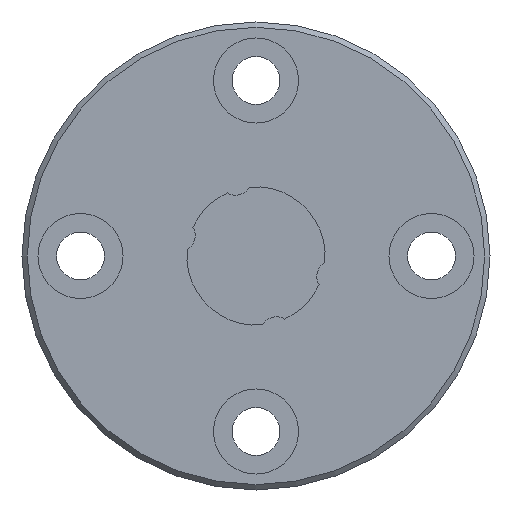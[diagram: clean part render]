
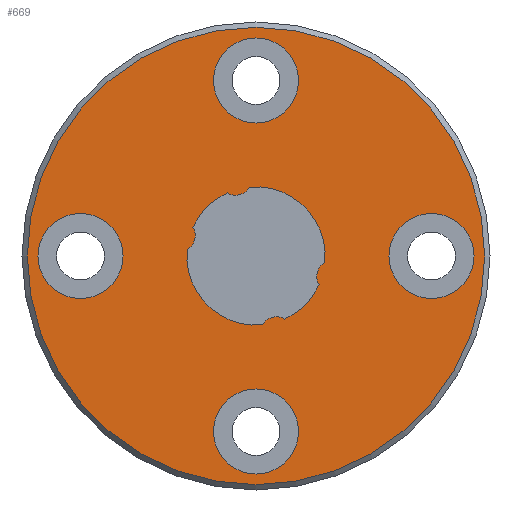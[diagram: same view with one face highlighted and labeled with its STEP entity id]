
A CAD part, left-side view. The second image highlights one B-rep face of the part: STEP entity #669.
In plain terms, the highlighted planar face has unit normal (-1, 0, 0).
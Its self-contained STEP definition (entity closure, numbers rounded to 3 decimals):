
#44=PLANE('',#757);
#135=ORIENTED_EDGE('',*,*,#279,.F.);
#136=ORIENTED_EDGE('',*,*,#280,.F.);
#137=ORIENTED_EDGE('',*,*,#281,.F.);
#138=ORIENTED_EDGE('',*,*,#282,.F.);
#139=ORIENTED_EDGE('',*,*,#283,.F.);
#140=ORIENTED_EDGE('',*,*,#284,.T.);
#141=ORIENTED_EDGE('',*,*,#285,.F.);
#142=ORIENTED_EDGE('',*,*,#286,.T.);
#143=ORIENTED_EDGE('',*,*,#287,.F.);
#144=ORIENTED_EDGE('',*,*,#288,.T.);
#145=ORIENTED_EDGE('',*,*,#289,.F.);
#146=ORIENTED_EDGE('',*,*,#290,.T.);
#147=ORIENTED_EDGE('',*,*,#291,.F.);
#279=EDGE_CURVE('',#355,#355,#421,.T.);
#280=EDGE_CURVE('',#356,#356,#422,.F.);
#281=EDGE_CURVE('',#357,#357,#423,.F.);
#282=EDGE_CURVE('',#358,#358,#424,.F.);
#283=EDGE_CURVE('',#359,#359,#425,.F.);
#284=EDGE_CURVE('',#360,#361,#426,.T.);
#285=EDGE_CURVE('',#362,#361,#427,.T.);
#286=EDGE_CURVE('',#362,#363,#428,.T.);
#287=EDGE_CURVE('',#364,#363,#429,.T.);
#288=EDGE_CURVE('',#364,#365,#430,.T.);
#289=EDGE_CURVE('',#366,#365,#431,.T.);
#290=EDGE_CURVE('',#366,#367,#432,.T.);
#291=EDGE_CURVE('',#360,#367,#433,.T.);
#355=VERTEX_POINT('',#1125);
#356=VERTEX_POINT('',#1127);
#357=VERTEX_POINT('',#1129);
#358=VERTEX_POINT('',#1131);
#359=VERTEX_POINT('',#1133);
#360=VERTEX_POINT('',#1135);
#361=VERTEX_POINT('',#1136);
#362=VERTEX_POINT('',#1138);
#363=VERTEX_POINT('',#1140);
#364=VERTEX_POINT('',#1142);
#365=VERTEX_POINT('',#1144);
#366=VERTEX_POINT('',#1146);
#367=VERTEX_POINT('',#1148);
#421=CIRCLE('',#758,21.5);
#422=CIRCLE('',#759,4.);
#423=CIRCLE('',#760,4.);
#424=CIRCLE('',#761,4.);
#425=CIRCLE('',#762,4.);
#426=CIRCLE('',#763,6.5);
#427=CIRCLE('',#764,1.44);
#428=CIRCLE('',#765,6.5);
#429=CIRCLE('',#766,1.44);
#430=CIRCLE('',#767,6.5);
#431=CIRCLE('',#768,1.44);
#432=CIRCLE('',#769,6.5);
#433=CIRCLE('',#770,1.44);
#475=EDGE_LOOP('',(#135));
#476=EDGE_LOOP('',(#136));
#477=EDGE_LOOP('',(#137));
#478=EDGE_LOOP('',(#138));
#479=EDGE_LOOP('',(#139));
#480=EDGE_LOOP('',(#140,#141,#142,#143,#144,#145,#146,#147));
#557=FACE_BOUND('',#475,.T.);
#558=FACE_BOUND('',#476,.T.);
#559=FACE_BOUND('',#477,.T.);
#560=FACE_BOUND('',#478,.T.);
#561=FACE_BOUND('',#479,.T.);
#562=FACE_BOUND('',#480,.T.);
#669=ADVANCED_FACE('',(#557,#558,#559,#560,#561,#562),#44,.F.);
#757=AXIS2_PLACEMENT_3D('',#1123,#901,#902);
#758=AXIS2_PLACEMENT_3D('',#1124,#903,#904);
#759=AXIS2_PLACEMENT_3D('',#1126,#905,#906);
#760=AXIS2_PLACEMENT_3D('',#1128,#907,#908);
#761=AXIS2_PLACEMENT_3D('',#1130,#909,#910);
#762=AXIS2_PLACEMENT_3D('',#1132,#911,#912);
#763=AXIS2_PLACEMENT_3D('',#1134,#913,#914);
#764=AXIS2_PLACEMENT_3D('',#1137,#915,#916);
#765=AXIS2_PLACEMENT_3D('',#1139,#917,#918);
#766=AXIS2_PLACEMENT_3D('',#1141,#919,#920);
#767=AXIS2_PLACEMENT_3D('',#1143,#921,#922);
#768=AXIS2_PLACEMENT_3D('',#1145,#923,#924);
#769=AXIS2_PLACEMENT_3D('',#1147,#925,#926);
#770=AXIS2_PLACEMENT_3D('',#1149,#927,#928);
#901=DIRECTION('',(1.,0.,0.));
#902=DIRECTION('',(0.,0.,-1.));
#903=DIRECTION('',(1.,0.,0.));
#904=DIRECTION('',(0.,0.,-1.));
#905=DIRECTION('',(1.,0.,0.));
#906=DIRECTION('',(0.,0.,-1.));
#907=DIRECTION('',(1.,0.,0.));
#908=DIRECTION('',(0.,0.,-1.));
#909=DIRECTION('',(1.,0.,0.));
#910=DIRECTION('',(0.,0.,-1.));
#911=DIRECTION('',(1.,0.,0.));
#912=DIRECTION('',(0.,0.,-1.));
#913=DIRECTION('',(1.,0.,0.));
#914=DIRECTION('',(0.,0.,-1.));
#915=DIRECTION('',(1.,0.,0.));
#916=DIRECTION('',(0.,0.,-1.));
#917=DIRECTION('',(1.,0.,0.));
#918=DIRECTION('',(0.,0.,-1.));
#919=DIRECTION('',(1.,0.,0.));
#920=DIRECTION('',(0.,0.,-1.));
#921=DIRECTION('',(1.,0.,0.));
#922=DIRECTION('',(0.,0.,-1.));
#923=DIRECTION('',(1.,0.,0.));
#924=DIRECTION('',(0.,0.,-1.));
#925=DIRECTION('',(1.,0.,0.));
#926=DIRECTION('',(0.,0.,-1.));
#927=DIRECTION('',(1.,0.,0.));
#928=DIRECTION('',(0.,0.,-1.));
#1123=CARTESIAN_POINT('',(0.,0.,0.));
#1124=CARTESIAN_POINT('',(0.,0.,0.));
#1125=CARTESIAN_POINT('',(0.,0.,-21.5));
#1126=CARTESIAN_POINT('',(0.,16.5,0.));
#1127=CARTESIAN_POINT('',(0.,16.5,-4.));
#1128=CARTESIAN_POINT('',(0.,0.,-16.5));
#1129=CARTESIAN_POINT('',(0.,0.,-20.5));
#1130=CARTESIAN_POINT('',(0.,0.,16.5));
#1131=CARTESIAN_POINT('',(0.,0.,12.5));
#1132=CARTESIAN_POINT('',(0.,-16.5,0.));
#1133=CARTESIAN_POINT('',(0.,-16.5,-4.));
#1134=CARTESIAN_POINT('',(0.,0.,0.));
#1135=CARTESIAN_POINT('',(0.,5.924,2.675));
#1136=CARTESIAN_POINT('',(0.,2.675,5.924));
#1137=CARTESIAN_POINT('',(0.,1.915,7.148));
#1138=CARTESIAN_POINT('',(0.,0.646,6.468));
#1139=CARTESIAN_POINT('',(0.,0.,0.));
#1140=CARTESIAN_POINT('',(0.,-6.468,-0.646));
#1141=CARTESIAN_POINT('',(0.,-7.148,-1.915));
#1142=CARTESIAN_POINT('',(0.,-5.924,-2.675));
#1143=CARTESIAN_POINT('',(0.,0.,0.));
#1144=CARTESIAN_POINT('',(0.,-2.675,-5.924));
#1145=CARTESIAN_POINT('',(0.,-1.915,-7.148));
#1146=CARTESIAN_POINT('',(0.,-0.646,-6.468));
#1147=CARTESIAN_POINT('',(0.,0.,0.));
#1148=CARTESIAN_POINT('',(0.,6.468,0.646));
#1149=CARTESIAN_POINT('',(0.,7.148,1.915));
